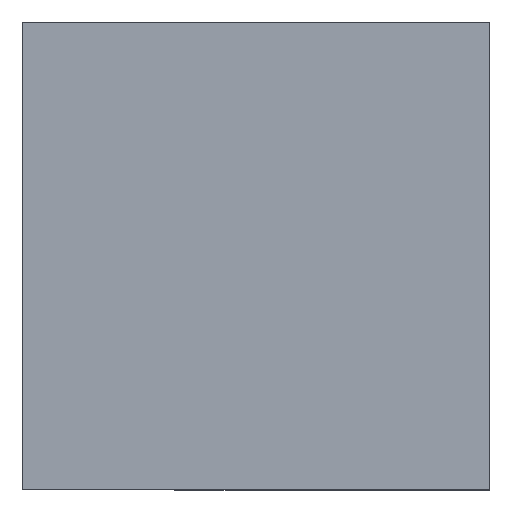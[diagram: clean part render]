
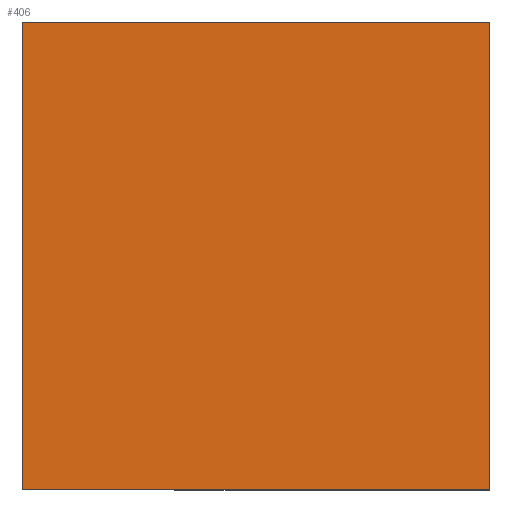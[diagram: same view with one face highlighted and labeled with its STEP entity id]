
A CAD part, top view. The second image highlights one B-rep face of the part: STEP entity #406.
In plain terms, the highlighted planar face has unit normal (0, 0, 1).
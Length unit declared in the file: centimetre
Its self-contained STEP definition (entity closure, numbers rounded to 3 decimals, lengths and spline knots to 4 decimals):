
#3 = CARTESIAN_POINT ( 'NONE',  ( 1000., 1000., 1000. ) ) ;
#16 = LINE ( 'NONE', #135, #55 ) ;
#17 = VERTEX_POINT ( 'NONE', #3 ) ;
#21 = DIRECTION ( 'NONE',  ( 1., 0., 0. ) ) ;
#51 = FACE_OUTER_BOUND ( 'NONE', #175, .T. ) ;
#55 = VECTOR ( 'NONE', #21, 100. ) ;
#56 = CARTESIAN_POINT ( 'NONE',  ( 1000., 1000., 1000. ) ) ;
#106 = EDGE_CURVE ( 'NONE', #17, #151, #388, .T. ) ;
#109 = EDGE_CURVE ( 'NONE', #151, #469, #499, .T. ) ;
#128 = PLANE ( 'NONE',  #474 ) ;
#135 = CARTESIAN_POINT ( 'NONE',  ( 0., 0., 1000. ) ) ;
#147 = CARTESIAN_POINT ( 'NONE',  ( 0., 0., 1000. ) ) ;
#148 = CARTESIAN_POINT ( 'NONE',  ( 0., 1000., 1000. ) ) ;
#151 = VERTEX_POINT ( 'NONE', #163 ) ;
#163 = CARTESIAN_POINT ( 'NONE',  ( 0., 1000., 1000. ) ) ;
#171 = DIRECTION ( 'NONE',  ( 0., 1., 0. ) ) ;
#175 = EDGE_LOOP ( 'NONE', ( #182, #444, #296, #468 ) ) ;
#180 = VERTEX_POINT ( 'NONE', #306 ) ;
#182 = ORIENTED_EDGE ( 'NONE', *, *, #109, .T. ) ;
#254 = DIRECTION ( 'NONE',  ( 1., 0., 0. ) ) ;
#278 = VECTOR ( 'NONE', #423, 100. ) ;
#296 = ORIENTED_EDGE ( 'NONE', *, *, #348, .T. ) ;
#306 = CARTESIAN_POINT ( 'NONE',  ( 1000., 0., 1000. ) ) ;
#315 = DIRECTION ( 'NONE',  ( -1., 0., 0. ) ) ;
#344 = CARTESIAN_POINT ( 'NONE',  ( 0., 1000., 1000. ) ) ;
#348 = EDGE_CURVE ( 'NONE', #180, #17, #369, .T. ) ;
#360 = VECTOR ( 'NONE', #315, 100. ) ;
#367 = EDGE_CURVE ( 'NONE', #469, #180, #16, .T. ) ;
#369 = LINE ( 'NONE', #56, #430 ) ;
#388 = LINE ( 'NONE', #344, #360 ) ;
#406 = ADVANCED_FACE ( 'NONE', ( #51 ), #128, .T. ) ;
#423 = DIRECTION ( 'NONE',  ( 0., -1., 0. ) ) ;
#430 = VECTOR ( 'NONE', #171, 100. ) ;
#439 = CARTESIAN_POINT ( 'NONE',  ( 0., 0., 1000. ) ) ;
#444 = ORIENTED_EDGE ( 'NONE', *, *, #367, .T. ) ;
#445 = DIRECTION ( 'NONE',  ( 0., 0., 1. ) ) ;
#468 = ORIENTED_EDGE ( 'NONE', *, *, #106, .T. ) ;
#469 = VERTEX_POINT ( 'NONE', #147 ) ;
#474 = AXIS2_PLACEMENT_3D ( 'NONE', #439, #445, #254 ) ;
#499 = LINE ( 'NONE', #148, #278 ) ;
